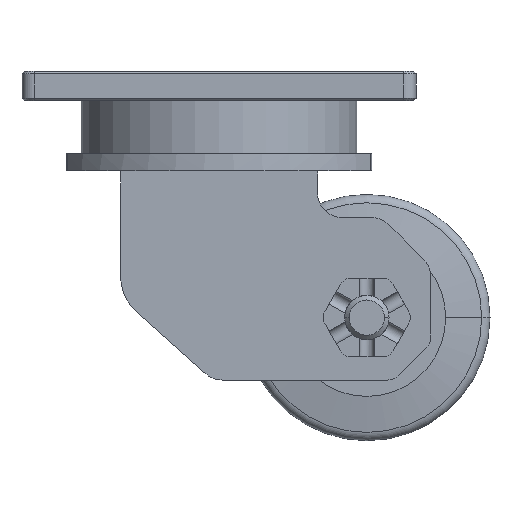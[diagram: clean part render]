
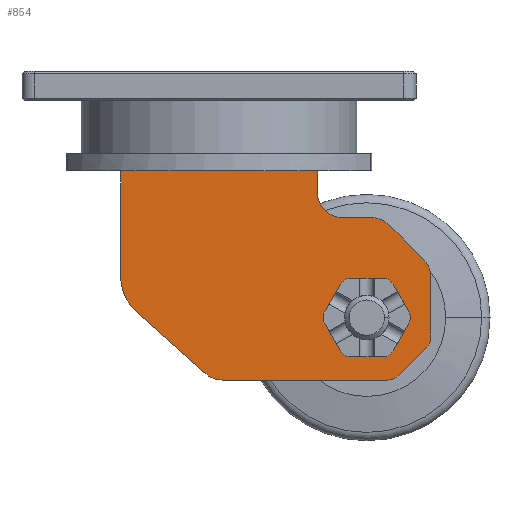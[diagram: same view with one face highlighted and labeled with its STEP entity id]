
A CAD part, front view. The second image highlights one B-rep face of the part: STEP entity #854.
In plain terms, the highlighted planar face has unit normal (0, -1, 0).
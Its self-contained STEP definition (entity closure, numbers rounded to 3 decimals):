
#854=ADVANCED_FACE('',(#1554,#1555),#1282,.F.);
#1282=PLANE('',#7801);
#1554=FACE_BOUND('',#1624,.T.);
#1555=FACE_BOUND('',#1625,.T.);
#1624=EDGE_LOOP('',(#2442,#2443,#2444,#2445,#2446,#2447,#2448,#2449,#2450,
#2451,#2452,#2453,#2454,#2455,#2456,#2457,#2458,#2459));
#1625=EDGE_LOOP('',(#2460,#2461,#2462,#2463,#2464,#2465,#2466,#2467,#2468,
#2469,#2470,#2471));
#2104=CIRCLE('',#7788,20.);
#2105=CIRCLE('',#7789,10.);
#2106=CIRCLE('',#7790,6.);
#2107=CIRCLE('',#7791,6.);
#2108=CIRCLE('',#7792,10.);
#2109=CIRCLE('',#7793,10.);
#2110=CIRCLE('',#7794,10.);
#2111=CIRCLE('',#7795,5.);
#2112=CIRCLE('',#7796,5.);
#2113=CIRCLE('',#7797,5.);
#2114=CIRCLE('',#7798,5.);
#2115=CIRCLE('',#7799,5.);
#2116=CIRCLE('',#7800,5.);
#2442=ORIENTED_EDGE('',*,*,#5508,.T.);
#2443=ORIENTED_EDGE('',*,*,#5509,.T.);
#2444=ORIENTED_EDGE('',*,*,#5510,.T.);
#2445=ORIENTED_EDGE('',*,*,#5511,.F.);
#2446=ORIENTED_EDGE('',*,*,#5512,.F.);
#2447=ORIENTED_EDGE('',*,*,#5513,.F.);
#2448=ORIENTED_EDGE('',*,*,#5514,.T.);
#2449=ORIENTED_EDGE('',*,*,#5515,.F.);
#2450=ORIENTED_EDGE('',*,*,#5516,.F.);
#2451=ORIENTED_EDGE('',*,*,#5517,.F.);
#2452=ORIENTED_EDGE('',*,*,#5518,.T.);
#2453=ORIENTED_EDGE('',*,*,#5519,.F.);
#2454=ORIENTED_EDGE('',*,*,#5520,.F.);
#2455=ORIENTED_EDGE('',*,*,#5521,.F.);
#2456=ORIENTED_EDGE('',*,*,#5522,.T.);
#2457=ORIENTED_EDGE('',*,*,#5523,.F.);
#2458=ORIENTED_EDGE('',*,*,#5524,.T.);
#2459=ORIENTED_EDGE('',*,*,#5525,.T.);
#2460=ORIENTED_EDGE('',*,*,#5526,.F.);
#2461=ORIENTED_EDGE('',*,*,#5527,.F.);
#2462=ORIENTED_EDGE('',*,*,#5528,.F.);
#2463=ORIENTED_EDGE('',*,*,#5529,.F.);
#2464=ORIENTED_EDGE('',*,*,#5530,.F.);
#2465=ORIENTED_EDGE('',*,*,#5531,.F.);
#2466=ORIENTED_EDGE('',*,*,#5532,.F.);
#2467=ORIENTED_EDGE('',*,*,#5533,.F.);
#2468=ORIENTED_EDGE('',*,*,#5534,.F.);
#2469=ORIENTED_EDGE('',*,*,#5535,.F.);
#2470=ORIENTED_EDGE('',*,*,#5536,.F.);
#2471=ORIENTED_EDGE('',*,*,#5537,.F.);
#4748=VERTEX_POINT('',#10657);
#4749=VERTEX_POINT('',#10658);
#4750=VERTEX_POINT('',#10660);
#4751=VERTEX_POINT('',#10662);
#4752=VERTEX_POINT('',#10664);
#4753=VERTEX_POINT('',#10666);
#4754=VERTEX_POINT('',#10668);
#4755=VERTEX_POINT('',#10670);
#4756=VERTEX_POINT('',#10672);
#4757=VERTEX_POINT('',#10674);
#4758=VERTEX_POINT('',#10676);
#4759=VERTEX_POINT('',#10678);
#4760=VERTEX_POINT('',#10680);
#4761=VERTEX_POINT('',#10682);
#4762=VERTEX_POINT('',#10684);
#4763=VERTEX_POINT('',#10686);
#4764=VERTEX_POINT('',#10688);
#4765=VERTEX_POINT('',#10690);
#4766=VERTEX_POINT('',#10693);
#4767=VERTEX_POINT('',#10694);
#4768=VERTEX_POINT('',#10696);
#4769=VERTEX_POINT('',#10698);
#4770=VERTEX_POINT('',#10700);
#4771=VERTEX_POINT('',#10702);
#4772=VERTEX_POINT('',#10704);
#4773=VERTEX_POINT('',#10706);
#4774=VERTEX_POINT('',#10708);
#4775=VERTEX_POINT('',#10710);
#4776=VERTEX_POINT('',#10712);
#4777=VERTEX_POINT('',#10714);
#5508=EDGE_CURVE('',#4748,#4749,#6652,.T.);
#5509=EDGE_CURVE('',#4749,#4750,#6653,.T.);
#5510=EDGE_CURVE('',#4750,#4751,#6654,.T.);
#5511=EDGE_CURVE('',#4752,#4751,#2104,.T.);
#5512=EDGE_CURVE('',#4753,#4752,#6655,.T.);
#5513=EDGE_CURVE('',#4754,#4753,#2105,.T.);
#5514=EDGE_CURVE('',#4754,#4755,#6656,.T.);
#5515=EDGE_CURVE('',#4756,#4755,#2106,.T.);
#5516=EDGE_CURVE('',#4757,#4756,#6657,.T.);
#5517=EDGE_CURVE('',#4758,#4757,#2107,.T.);
#5518=EDGE_CURVE('',#4758,#4759,#6658,.T.);
#5519=EDGE_CURVE('',#4760,#4759,#2108,.T.);
#5520=EDGE_CURVE('',#4761,#4760,#6659,.T.);
#5521=EDGE_CURVE('',#4762,#4761,#2109,.T.);
#5522=EDGE_CURVE('',#4762,#4763,#6660,.T.);
#5523=EDGE_CURVE('',#4764,#4763,#2110,.T.);
#5524=EDGE_CURVE('',#4764,#4765,#6661,.T.);
#5525=EDGE_CURVE('',#4765,#4748,#6662,.T.);
#5526=EDGE_CURVE('',#4766,#4767,#6663,.T.);
#5527=EDGE_CURVE('',#4768,#4766,#2111,.T.);
#5528=EDGE_CURVE('',#4769,#4768,#6664,.T.);
#5529=EDGE_CURVE('',#4770,#4769,#2112,.T.);
#5530=EDGE_CURVE('',#4771,#4770,#6665,.T.);
#5531=EDGE_CURVE('',#4772,#4771,#2113,.T.);
#5532=EDGE_CURVE('',#4773,#4772,#6666,.T.);
#5533=EDGE_CURVE('',#4774,#4773,#2114,.T.);
#5534=EDGE_CURVE('',#4775,#4774,#6667,.T.);
#5535=EDGE_CURVE('',#4776,#4775,#2115,.T.);
#5536=EDGE_CURVE('',#4777,#4776,#6668,.T.);
#5537=EDGE_CURVE('',#4767,#4777,#2116,.T.);
#6652=LINE('',#10656,#7219);
#6653=LINE('',#10659,#7220);
#6654=LINE('',#10661,#7221);
#6655=LINE('',#10665,#7222);
#6656=LINE('',#10669,#7223);
#6657=LINE('',#10673,#7224);
#6658=LINE('',#10677,#7225);
#6659=LINE('',#10681,#7226);
#6660=LINE('',#10685,#7227);
#6661=LINE('',#10689,#7228);
#6662=LINE('',#10691,#7229);
#6663=LINE('',#10692,#7230);
#6664=LINE('',#10697,#7231);
#6665=LINE('',#10701,#7232);
#6666=LINE('',#10705,#7233);
#6667=LINE('',#10709,#7234);
#6668=LINE('',#10713,#7235);
#7219=VECTOR('',#8566,1.);
#7220=VECTOR('',#8567,1.);
#7221=VECTOR('',#8568,1.);
#7222=VECTOR('',#8571,1.);
#7223=VECTOR('',#8574,1.);
#7224=VECTOR('',#8577,1.);
#7225=VECTOR('',#8580,1.);
#7226=VECTOR('',#8583,1.);
#7227=VECTOR('',#8586,1.);
#7228=VECTOR('',#8589,1.);
#7229=VECTOR('',#8590,1.);
#7230=VECTOR('',#8591,1.);
#7231=VECTOR('',#8594,1.);
#7232=VECTOR('',#8597,1.);
#7233=VECTOR('',#8600,1.);
#7234=VECTOR('',#8603,1.);
#7235=VECTOR('',#8606,1.);
#7788=AXIS2_PLACEMENT_3D('',#10663,#8569,#8570);
#7789=AXIS2_PLACEMENT_3D('',#10667,#8572,#8573);
#7790=AXIS2_PLACEMENT_3D('',#10671,#8575,#8576);
#7791=AXIS2_PLACEMENT_3D('',#10675,#8578,#8579);
#7792=AXIS2_PLACEMENT_3D('',#10679,#8581,#8582);
#7793=AXIS2_PLACEMENT_3D('',#10683,#8584,#8585);
#7794=AXIS2_PLACEMENT_3D('',#10687,#8587,#8588);
#7795=AXIS2_PLACEMENT_3D('',#10695,#8592,#8593);
#7796=AXIS2_PLACEMENT_3D('',#10699,#8595,#8596);
#7797=AXIS2_PLACEMENT_3D('',#10703,#8598,#8599);
#7798=AXIS2_PLACEMENT_3D('',#10707,#8601,#8602);
#7799=AXIS2_PLACEMENT_3D('',#10711,#8604,#8605);
#7800=AXIS2_PLACEMENT_3D('',#10715,#8607,#8608);
#7801=AXIS2_PLACEMENT_3D('',#10716,#8609,#8610);
#8566=DIRECTION('',(-1.,0.,0.));
#8567=DIRECTION('',(-1.,0.,0.));
#8568=DIRECTION('',(0.,0.,-1.));
#8569=DIRECTION('',(0.,1.,0.));
#8570=DIRECTION('',(-0.664,0.,-0.748));
#8571=DIRECTION('',(-0.748,0.,0.664));
#8572=DIRECTION('',(0.,1.,0.));
#8573=DIRECTION('',(0.,0.,-1.));
#8574=DIRECTION('',(1.,0.,0.));
#8575=DIRECTION('',(0.,1.,0.));
#8576=DIRECTION('',(0.707,0.,-0.707));
#8577=DIRECTION('',(-0.707,0.,-0.707));
#8578=DIRECTION('',(0.,1.,0.));
#8579=DIRECTION('',(1.,0.,0.));
#8580=DIRECTION('',(0.,0.,1.));
#8581=DIRECTION('',(0.,1.,0.));
#8582=DIRECTION('',(0.707,0.,0.707));
#8583=DIRECTION('',(0.707,0.,-0.707));
#8584=DIRECTION('',(0.,1.,0.));
#8585=DIRECTION('',(0.,0.,1.));
#8586=DIRECTION('',(-1.,0.,0.));
#8587=DIRECTION('',(0.,-1.,0.));
#8588=DIRECTION('',(-1.,0.,0.));
#8589=DIRECTION('',(0.,0.,1.));
#8590=DIRECTION('',(-1.,0.,0.));
#8591=DIRECTION('',(-0.5,0.,0.866));
#8592=DIRECTION('',(0.,-1.,0.));
#8593=DIRECTION('',(0.866,0.,-0.5));
#8594=DIRECTION('',(0.5,0.,0.866));
#8595=DIRECTION('',(0.,-1.,0.));
#8596=DIRECTION('',(0.,0.,-1.));
#8597=DIRECTION('',(1.,0.,0.));
#8598=DIRECTION('',(0.,-1.,0.));
#8599=DIRECTION('',(-0.866,0.,-0.5));
#8600=DIRECTION('',(0.5,0.,-0.866));
#8601=DIRECTION('',(0.,-1.,0.));
#8602=DIRECTION('',(-0.866,0.,0.5));
#8603=DIRECTION('',(-0.5,0.,-0.866));
#8604=DIRECTION('',(0.,-1.,0.));
#8605=DIRECTION('',(0.,0.,1.));
#8606=DIRECTION('',(-1.,0.,0.));
#8607=DIRECTION('',(0.,-1.,0.));
#8608=DIRECTION('',(0.866,0.,0.5));
#8609=DIRECTION('',(0.,1.,0.));
#8610=DIRECTION('',(1.,0.,0.));
#10656=CARTESIAN_POINT('',(39.559,-57.75,-40.45));
#10657=CARTESIAN_POINT('',(39.559,-57.75,-40.45));
#10658=CARTESIAN_POINT('',(-39.559,-57.75,-40.45));
#10659=CARTESIAN_POINT('',(-39.559,-57.75,-40.45));
#10660=CARTESIAN_POINT('',(-40.,-57.75,-40.45));
#10661=CARTESIAN_POINT('',(-40.,-57.75,-40.45));
#10662=CARTESIAN_POINT('',(-40.,-57.75,-83.045));
#10663=CARTESIAN_POINT('',(-20.,-57.75,-83.045));
#10664=CARTESIAN_POINT('',(-33.284,-57.75,-97.996));
#10665=CARTESIAN_POINT('',(-5.315,-57.75,-122.847));
#10666=CARTESIAN_POINT('',(-5.315,-57.75,-122.847));
#10667=CARTESIAN_POINT('',(1.327,-57.75,-115.372));
#10668=CARTESIAN_POINT('',(1.327,-57.75,-125.372));
#10669=CARTESIAN_POINT('',(1.327,-57.75,-125.372));
#10670=CARTESIAN_POINT('',(68.515,-57.75,-125.372));
#10671=CARTESIAN_POINT('',(68.515,-57.75,-119.372));
#10672=CARTESIAN_POINT('',(72.758,-57.75,-123.614));
#10673=CARTESIAN_POINT('',(84.243,-57.75,-112.129));
#10674=CARTESIAN_POINT('',(84.243,-57.75,-112.129));
#10675=CARTESIAN_POINT('',(80.,-57.75,-107.886));
#10676=CARTESIAN_POINT('',(86.,-57.75,-107.886));
#10677=CARTESIAN_POINT('',(86.,-57.75,-107.886));
#10678=CARTESIAN_POINT('',(86.,-57.75,-83.491));
#10679=CARTESIAN_POINT('',(76.,-57.75,-83.491));
#10680=CARTESIAN_POINT('',(83.071,-57.75,-76.42));
#10681=CARTESIAN_POINT('',(68.925,-57.75,-62.273));
#10682=CARTESIAN_POINT('',(68.925,-57.75,-62.273));
#10683=CARTESIAN_POINT('',(61.853,-57.75,-69.344));
#10684=CARTESIAN_POINT('',(61.853,-57.75,-59.344));
#10685=CARTESIAN_POINT('',(61.853,-57.75,-59.344));
#10686=CARTESIAN_POINT('',(50.,-57.75,-59.344));
#10687=CARTESIAN_POINT('',(50.,-57.75,-49.344));
#10688=CARTESIAN_POINT('',(40.,-57.75,-49.344));
#10689=CARTESIAN_POINT('',(40.,-57.75,-49.344));
#10690=CARTESIAN_POINT('',(40.,-57.75,-40.45));
#10691=CARTESIAN_POINT('',(40.,-57.75,-40.45));
#10692=CARTESIAN_POINT('',(77.032,-57.75,-97.5));
#10693=CARTESIAN_POINT('',(77.032,-57.75,-97.5));
#10694=CARTESIAN_POINT('',(70.681,-57.75,-86.5));
#10695=CARTESIAN_POINT('',(72.702,-57.75,-100.));
#10696=CARTESIAN_POINT('',(77.032,-57.75,-102.5));
#10697=CARTESIAN_POINT('',(70.681,-57.75,-113.5));
#10698=CARTESIAN_POINT('',(70.681,-57.75,-113.5));
#10699=CARTESIAN_POINT('',(66.351,-57.75,-111.));
#10700=CARTESIAN_POINT('',(66.351,-57.75,-116.));
#10701=CARTESIAN_POINT('',(53.649,-57.75,-116.));
#10702=CARTESIAN_POINT('',(53.649,-57.75,-116.));
#10703=CARTESIAN_POINT('',(53.649,-57.75,-111.));
#10704=CARTESIAN_POINT('',(49.319,-57.75,-113.5));
#10705=CARTESIAN_POINT('',(42.968,-57.75,-102.5));
#10706=CARTESIAN_POINT('',(42.968,-57.75,-102.5));
#10707=CARTESIAN_POINT('',(47.298,-57.75,-100.));
#10708=CARTESIAN_POINT('',(42.968,-57.75,-97.5));
#10709=CARTESIAN_POINT('',(49.319,-57.75,-86.5));
#10710=CARTESIAN_POINT('',(49.319,-57.75,-86.5));
#10711=CARTESIAN_POINT('',(53.649,-57.75,-89.));
#10712=CARTESIAN_POINT('',(53.649,-57.75,-84.));
#10713=CARTESIAN_POINT('',(66.351,-57.75,-84.));
#10714=CARTESIAN_POINT('',(66.351,-57.75,-84.));
#10715=CARTESIAN_POINT('',(66.351,-57.75,-89.));
#10716=CARTESIAN_POINT('',(0.,-57.75,0.));
